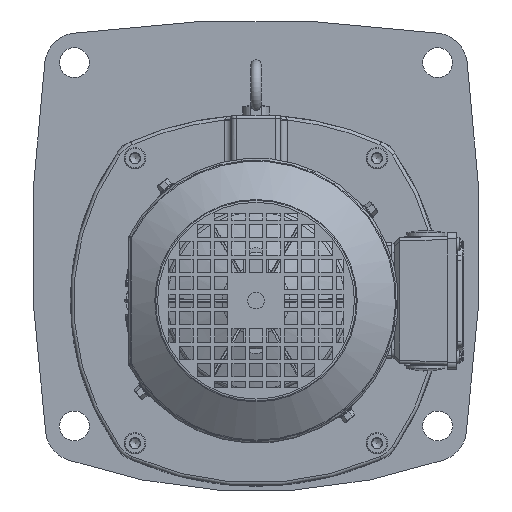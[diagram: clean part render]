
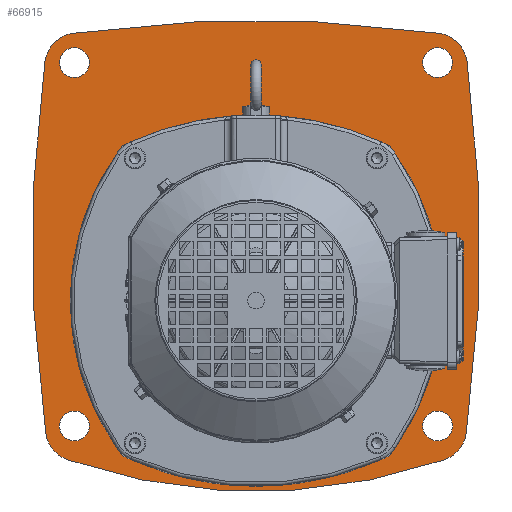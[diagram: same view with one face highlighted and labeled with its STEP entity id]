
A CAD part, left-side view. The second image highlights one B-rep face of the part: STEP entity #66915.
In plain terms, the highlighted planar face has unit normal (-1, 0, 0).
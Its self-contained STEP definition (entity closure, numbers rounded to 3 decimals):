
#15048=FACE_BOUND('',#22740,.T.);
#15049=FACE_BOUND('',#22741,.T.);
#15050=FACE_BOUND('',#22742,.T.);
#15051=FACE_BOUND('',#22743,.T.);
#15052=FACE_BOUND('',#22744,.T.);
#18726=FACE_OUTER_BOUND('',#22739,.T.);
#22739=EDGE_LOOP('',(#61036,#61037,#61038,#61039,#61040,#61041,#61042,#61043));
#22740=EDGE_LOOP('',(#61044));
#22741=EDGE_LOOP('',(#61045));
#22742=EDGE_LOOP('',(#61046));
#22743=EDGE_LOOP('',(#61047));
#22744=EDGE_LOOP('',(#61048,#61049,#61050,#61051));
#25047=CIRCLE('',#73083,20.);
#25048=CIRCLE('',#73084,800.);
#25049=CIRCLE('',#73085,20.);
#25050=CIRCLE('',#73086,800.);
#25051=CIRCLE('',#73087,20.);
#25052=CIRCLE('',#73088,800.);
#25053=CIRCLE('',#73089,20.);
#25054=CIRCLE('',#73090,350.);
#25055=CIRCLE('',#73091,9.);
#25056=CIRCLE('',#73092,9.);
#25057=CIRCLE('',#73093,9.);
#25058=CIRCLE('',#73094,9.);
#25059=CIRCLE('',#73095,155.);
#25060=CIRCLE('',#73096,185.);
#25061=CIRCLE('',#73097,155.);
#25062=CIRCLE('',#73098,185.);
#31340=VERTEX_POINT('',#159999);
#31341=VERTEX_POINT('',#160000);
#31342=VERTEX_POINT('',#160002);
#31343=VERTEX_POINT('',#160004);
#31344=VERTEX_POINT('',#160006);
#31345=VERTEX_POINT('',#160008);
#31346=VERTEX_POINT('',#160010);
#31347=VERTEX_POINT('',#160012);
#31348=VERTEX_POINT('',#160015);
#31349=VERTEX_POINT('',#160017);
#31350=VERTEX_POINT('',#160019);
#31351=VERTEX_POINT('',#160021);
#31352=VERTEX_POINT('',#160023);
#31353=VERTEX_POINT('',#160024);
#31354=VERTEX_POINT('',#160026);
#31355=VERTEX_POINT('',#160028);
#41263=EDGE_CURVE('',#31340,#31341,#25047,.T.);
#41264=EDGE_CURVE('',#31340,#31342,#25048,.T.);
#41265=EDGE_CURVE('',#31343,#31342,#25049,.T.);
#41266=EDGE_CURVE('',#31343,#31344,#25050,.T.);
#41267=EDGE_CURVE('',#31345,#31344,#25051,.T.);
#41268=EDGE_CURVE('',#31345,#31346,#25052,.T.);
#41269=EDGE_CURVE('',#31347,#31346,#25053,.T.);
#41270=EDGE_CURVE('',#31347,#31341,#25054,.T.);
#41271=EDGE_CURVE('',#31348,#31348,#25055,.T.);
#41272=EDGE_CURVE('',#31349,#31349,#25056,.T.);
#41273=EDGE_CURVE('',#31350,#31350,#25057,.T.);
#41274=EDGE_CURVE('',#31351,#31351,#25058,.T.);
#41275=EDGE_CURVE('',#31352,#31353,#25059,.T.);
#41276=EDGE_CURVE('',#31353,#31354,#25060,.T.);
#41277=EDGE_CURVE('',#31354,#31355,#25061,.T.);
#41278=EDGE_CURVE('',#31355,#31352,#25062,.T.);
#61036=ORIENTED_EDGE('',*,*,#41263,.F.);
#61037=ORIENTED_EDGE('',*,*,#41264,.T.);
#61038=ORIENTED_EDGE('',*,*,#41265,.F.);
#61039=ORIENTED_EDGE('',*,*,#41266,.T.);
#61040=ORIENTED_EDGE('',*,*,#41267,.F.);
#61041=ORIENTED_EDGE('',*,*,#41268,.T.);
#61042=ORIENTED_EDGE('',*,*,#41269,.F.);
#61043=ORIENTED_EDGE('',*,*,#41270,.T.);
#61044=ORIENTED_EDGE('',*,*,#41271,.T.);
#61045=ORIENTED_EDGE('',*,*,#41272,.T.);
#61046=ORIENTED_EDGE('',*,*,#41273,.T.);
#61047=ORIENTED_EDGE('',*,*,#41274,.T.);
#61048=ORIENTED_EDGE('',*,*,#41275,.T.);
#61049=ORIENTED_EDGE('',*,*,#41276,.T.);
#61050=ORIENTED_EDGE('',*,*,#41277,.T.);
#61051=ORIENTED_EDGE('',*,*,#41278,.T.);
#63046=PLANE('',#73082);
#66915=ADVANCED_FACE('',(#18726,#15048,#15049,#15050,#15051,#15052),#63046,
 .T.);
#73082=AXIS2_PLACEMENT_3D('',#159998,#90280,#90281);
#73083=AXIS2_PLACEMENT_3D('',#160001,#90282,#90283);
#73084=AXIS2_PLACEMENT_3D('',#160003,#90284,#90285);
#73085=AXIS2_PLACEMENT_3D('',#160005,#90286,#90287);
#73086=AXIS2_PLACEMENT_3D('',#160007,#90288,#90289);
#73087=AXIS2_PLACEMENT_3D('',#160009,#90290,#90291);
#73088=AXIS2_PLACEMENT_3D('',#160011,#90292,#90293);
#73089=AXIS2_PLACEMENT_3D('',#160013,#90294,#90295);
#73090=AXIS2_PLACEMENT_3D('',#160014,#90296,#90297);
#73091=AXIS2_PLACEMENT_3D('',#160016,#90298,#90299);
#73092=AXIS2_PLACEMENT_3D('',#160018,#90300,#90301);
#73093=AXIS2_PLACEMENT_3D('',#160020,#90302,#90303);
#73094=AXIS2_PLACEMENT_3D('',#160022,#90304,#90305);
#73095=AXIS2_PLACEMENT_3D('',#160025,#90306,#90307);
#73096=AXIS2_PLACEMENT_3D('',#160027,#90308,#90309);
#73097=AXIS2_PLACEMENT_3D('',#160029,#90310,#90311);
#73098=AXIS2_PLACEMENT_3D('',#160030,#90312,#90313);
#90280=DIRECTION('center_axis',(-1.,0.,0.));
#90281=DIRECTION('ref_axis',(0.,0.,-1.));
#90282=DIRECTION('center_axis',(1.,0.,0.));
#90283=DIRECTION('ref_axis',(0.,-0.77,-0.638));
#90284=DIRECTION('center_axis',(-1.,0.,0.));
#90285=DIRECTION('ref_axis',(0.,0.988,0.157));
#90286=DIRECTION('center_axis',(1.,0.,0.));
#90287=DIRECTION('ref_axis',(0.,-0.707,0.707));
#90288=DIRECTION('center_axis',(-1.,0.,0.));
#90289=DIRECTION('ref_axis',(0.,0.156,-0.988));
#90290=DIRECTION('center_axis',(1.,0.,0.));
#90291=DIRECTION('ref_axis',(0.,0.707,0.707));
#90292=DIRECTION('center_axis',(-1.,0.,0.));
#90293=DIRECTION('ref_axis',(0.,-0.988,-0.156));
#90294=DIRECTION('center_axis',(1.,0.,0.));
#90295=DIRECTION('ref_axis',(0.,0.77,-0.638));
#90296=DIRECTION('center_axis',(-1.,0.,0.));
#90297=DIRECTION('ref_axis',(0.,-0.357,0.934));
#90298=DIRECTION('center_axis',(1.,0.,0.));
#90299=DIRECTION('ref_axis',(0.,-1.,0.));
#90300=DIRECTION('center_axis',(1.,0.,0.));
#90301=DIRECTION('ref_axis',(0.,0.,
-1.));
#90302=DIRECTION('center_axis',(1.,0.,0.));
#90303=DIRECTION('ref_axis',(0.,1.,0.));
#90304=DIRECTION('center_axis',(1.,0.,0.));
#90305=DIRECTION('ref_axis',(0.,0.,1.));
#90306=DIRECTION('center_axis',(1.,0.,0.));
#90307=DIRECTION('ref_axis',(0.,0.798,0.603));
#90308=DIRECTION('center_axis',(1.,0.,0.));
#90309=DIRECTION('ref_axis',(0.,-0.436,0.9));
#90310=DIRECTION('center_axis',(1.,0.,0.));
#90311=DIRECTION('ref_axis',(0.,-0.798,-0.603));
#90312=DIRECTION('center_axis',(1.,0.,0.));
#90313=DIRECTION('ref_axis',(0.,0.436,-0.9));
#159998=CARTESIAN_POINT('Origin',(54.284,4.183,34.322));
#159999=CARTESIAN_POINT('',(54.284,-122.652,-76.511));
#160000=CARTESIAN_POINT('',(54.284,-109.343,-92.579));
#160001=CARTESIAN_POINT('Origin',(54.284,-102.856,-73.66));
#160002=CARTESIAN_POINT('',(54.284,-123.176,147.805));
#160003=CARTESIAN_POINT('Origin',(54.284,669.183,37.498));
#160004=CARTESIAN_POINT('',(54.284,-106.125,164.856));
#160005=CARTESIAN_POINT('Origin',(54.284,-103.367,145.047));
#160006=CARTESIAN_POINT('',(54.284,114.49,164.856));
#160007=CARTESIAN_POINT('Origin',(54.284,4.183,-627.502));
#160008=CARTESIAN_POINT('',(54.284,131.541,147.805));
#160009=CARTESIAN_POINT('Origin',(54.284,111.732,145.047));
#160010=CARTESIAN_POINT('',(54.284,131.017,-76.511));
#160011=CARTESIAN_POINT('Origin',(54.284,-660.817,37.498));
#160012=CARTESIAN_POINT('',(54.284,117.709,-92.579));
#160013=CARTESIAN_POINT('Origin',(54.284,111.222,-73.66));
#160014=CARTESIAN_POINT('Origin',(54.284,4.183,238.498));
#160015=CARTESIAN_POINT('',(54.284,-96.419,-72.104));
#160016=CARTESIAN_POINT('Origin',(54.284,-105.419,-72.104));
#160017=CARTESIAN_POINT('',(54.284,113.784,-63.104));
#160018=CARTESIAN_POINT('Origin',(54.284,113.784,-72.104));
#160019=CARTESIAN_POINT('',(54.284,104.784,147.099));
#160020=CARTESIAN_POINT('Origin',(54.284,113.784,147.099));
#160021=CARTESIAN_POINT('',(54.284,-105.419,138.099));
#160022=CARTESIAN_POINT('Origin',(54.284,-105.419,147.099));
#160023=CARTESIAN_POINT('',(54.284,-76.431,97.01));
#160024=CARTESIAN_POINT('',(54.284,-76.431,-90.015));
#160025=CARTESIAN_POINT('Origin',(54.284,47.183,3.498));
#160026=CARTESIAN_POINT('',(54.284,84.797,-90.015));
#160027=CARTESIAN_POINT('Origin',(54.284,4.183,76.498));
#160028=CARTESIAN_POINT('',(54.284,84.797,97.01));
#160029=CARTESIAN_POINT('Origin',(54.284,-38.817,3.498));
#160030=CARTESIAN_POINT('Origin',(54.284,4.183,-69.502));
